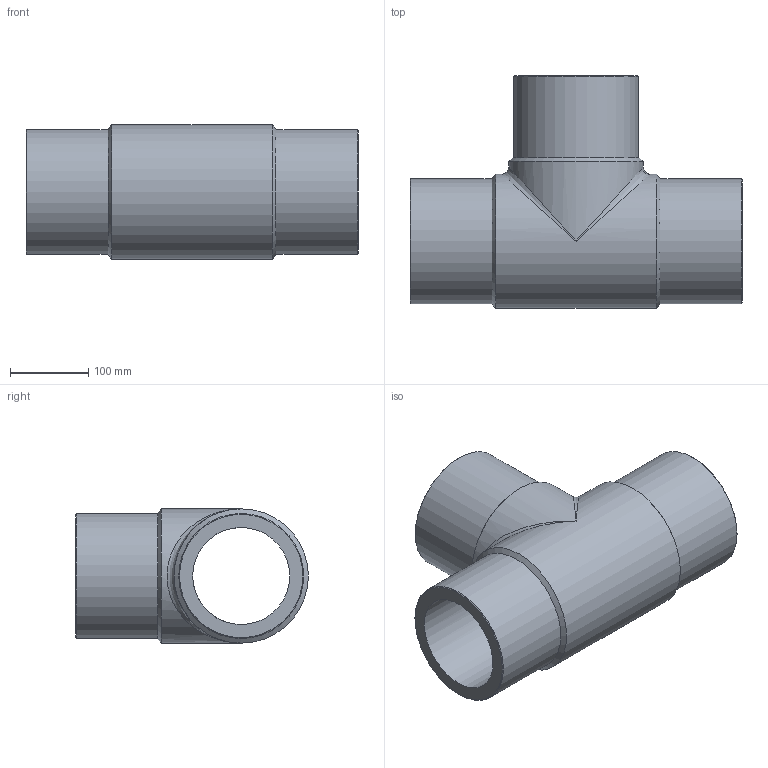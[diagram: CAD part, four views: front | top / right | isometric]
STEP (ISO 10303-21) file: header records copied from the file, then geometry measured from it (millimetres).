
FILE_DESCRIPTION(/* description */ ('Unknown'),/* implementation_level */ '2;1');
FILE_NAME(/* name */ 'TP160G',/* time_stamp */ '2021-08-13T10:06:49+02:00',/* author */ ('Unknown'),/* organization */ ('Unknown'),/* preprocessor_version */ 'ST-DEVELOPER v16.7',/* originating_system */ 'Solid Edge',/* authorisation */ 'Unknown');
FILE_SCHEMA (('AUTOMOTIVE_DESIGN {1 0 10303 214 3 1 1}'));
Length unit declared in the file: millimetre
Products named in the file (1): TP160G
Bounding box: 425 x 298 x 172 mm (x, y, z)
Volume: 5021874.6 mm3; surface area: 517598.2 mm2
Topology: 1 solids, 1 shells, 18 faces, 44 edges, 23 vertices
Faces by surface type: cylinder 7, cone 6, plane 3, bspline 2
Full cylindrical faces by diameter (mm): 124.2 x2, 160 x3, 172 x2
Entity records: 528 total; most frequent: CARTESIAN_POINT 171, DIRECTION 76, ORIENTED_EDGE 42, AXIS2_PLACEMENT_3D 38, EDGE_LOOP 36, FACE_BOUND 36, EDGE_CURVE 21, VERTEX_POINT 19
